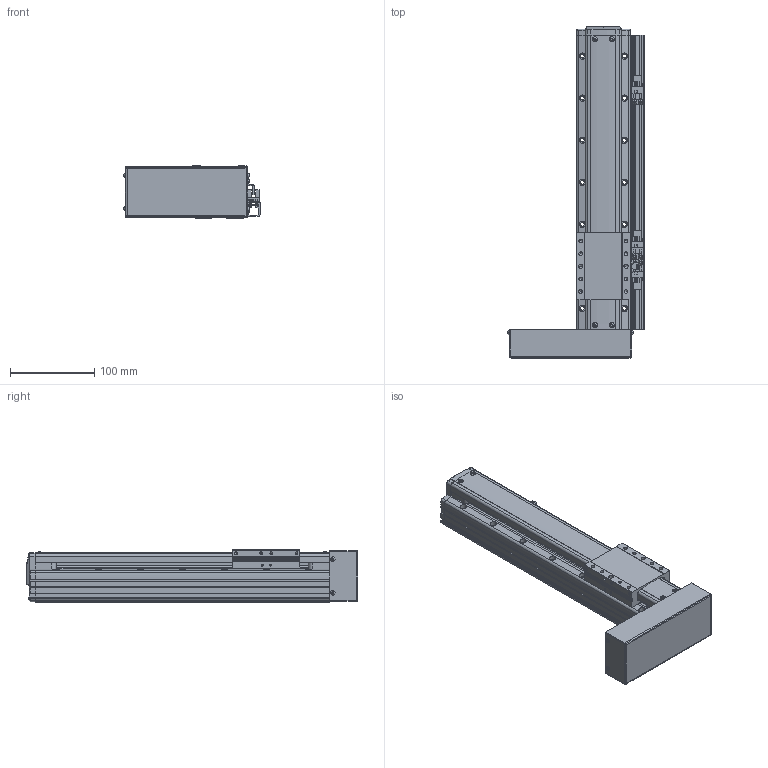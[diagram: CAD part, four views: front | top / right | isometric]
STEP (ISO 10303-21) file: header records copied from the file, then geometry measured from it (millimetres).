
FILE_DESCRIPTION(('STEP AP214'),'1');
FILE_NAME('Z:/Web/3D/PSA65/STP/PSA65-200 (3D)/PSA65ㅁㅁ-200PL+3SR.stp','2014-06-25T03:28:20',(' '),(' '),'Spatial InterOp 3D',' ',' ');
FILE_SCHEMA(('automotive_design'));
Length unit declared in the file: millimetre
Products named in the file (67): SLIDE; RRCV-PA060; 1; 2; 3; 4; 5; 6; 7; 8; 9; 10; 11; 12; 13; 14; 15; 16; 17; 18; 19; 20; 21; 22; 23; 24; 25; 26; 27; 28; 29; 30; 31; 스크루 : Round - M3.0 x 8.0; RN8 x 0.75; SHAFT-SAN65; BASE; 스크루 : Round - M3.0 x 6.0; BTCV-SAN65; BHCS M3 X 6L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
Bounding box: 162.06 x 394.8 x 62 mm (x, y, z)
Volume: 1443944.9 mm3; surface area: 249651.8 mm2
Topology: 67 solids, 67 shells, 2220 faces, 5847 edges, 3762 vertices
Faces by surface type: plane 1387, cylinder 561, cone 187, sphere 50, bspline 19, torus 16
Entity records: 87926 total; most frequent: CARTESIAN_POINT 13517, DIRECTION 11754, ORIENTED_EDGE 11466, EDGE_CURVE 5733, LINE 4076, VECTOR 4076, AXIS2_PLACEMENT_3D 3839, VERTEX_POINT 3762
